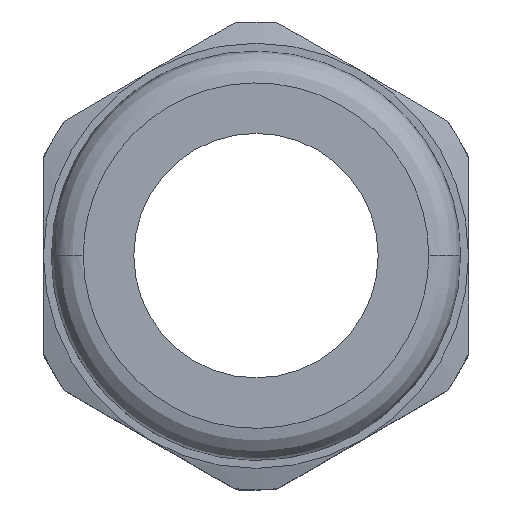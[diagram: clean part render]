
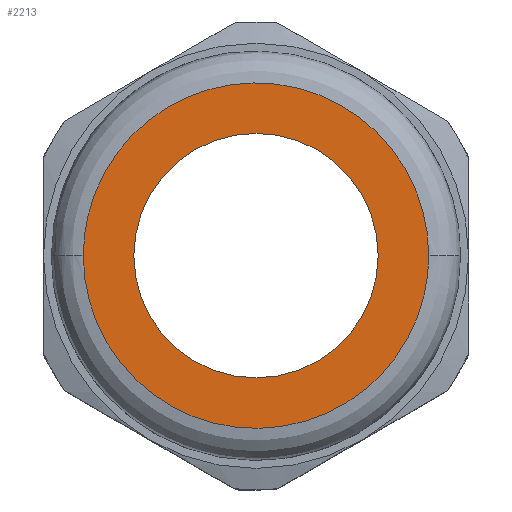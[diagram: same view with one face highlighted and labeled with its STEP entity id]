
A CAD part, top view. The second image highlights one B-rep face of the part: STEP entity #2213.
In plain terms, the highlighted planar face has unit normal (0, 0, 1).
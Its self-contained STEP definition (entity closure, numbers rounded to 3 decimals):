
#12 = CARTESIAN_POINT ( 'NONE',  ( -12.242, -10.739, 14. ) ) ;
#156 = CARTESIAN_POINT ( 'NONE',  ( 16.25, 0., 14. ) ) ;
#171 = CARTESIAN_POINT ( 'NONE',  ( -12.916, -9.917, 14. ) ) ;
#278 = EDGE_CURVE ( 'NONE', #5765, #11070, #3142, .T. ) ;
#290 = CARTESIAN_POINT ( 'NONE',  ( -4.219, 15.728, 14. ) ) ;
#441 = EDGE_LOOP ( 'NONE', ( #8482, #8923 ) ) ;
#1091 = CARTESIAN_POINT ( 'NONE',  ( 12.916, -9.917, 14. ) ) ;
#1513 = FACE_BOUND ( 'NONE', #441, .T. ) ;
#1540 = CARTESIAN_POINT ( 'NONE',  ( -2.121, 16.145, 14. ) ) ;
#1616 = CARTESIAN_POINT ( 'NONE',  ( -10.739, 12.242, 14. ) ) ;
#1700 = CARTESIAN_POINT ( 'NONE',  ( 4.219, 15.728, 14. ) ) ;
#1771 = CARTESIAN_POINT ( 'NONE',  ( -15.728, 4.22, 14. ) ) ;
#1919 = CARTESIAN_POINT ( 'NONE',  ( -15.42, 5.236, 14. ) ) ;
#1994 = CARTESIAN_POINT ( 'NONE',  ( -16.25, 1.064, 14. ) ) ;
#2069 = CARTESIAN_POINT ( 'NONE',  ( -12.916, 9.917, 14. ) ) ;
#2202 = CARTESIAN_POINT ( 'NONE',  ( 2.121, -16.145, 14. ) ) ;
#2213 = ADVANCED_FACE ( 'NONE', ( #11312, #1513 ), #8895, .T. ) ;
#2280 = CARTESIAN_POINT ( 'NONE',  ( -14.105, -8.138, 14. ) ) ;
#2439 = CARTESIAN_POINT ( 'NONE',  ( 9.917, -12.916, 14. ) ) ;
#2524 = CARTESIAN_POINT ( 'NONE',  ( 8.138, -14.105, 14. ) ) ;
#2648 = CARTESIAN_POINT ( 'NONE',  ( 15.728, 4.219, 14. ) ) ;
#2720 = CARTESIAN_POINT ( 'NONE',  ( 12.916, 9.917, 14. ) ) ;
#2751 = ORIENTED_EDGE ( 'NONE', *, *, #278, .T. ) ;
#3142 = B_SPLINE_CURVE_WITH_KNOTS ( 'NONE', 3,
 ( #8541, #13388, #11043, #2648, #8708, #13313, #7580, #2720, #8783, #12214, #14643, #6237, #10013, #7343, #1700, #13543, #12282, #6472, #1540, #290, #12361, #5056, #9853, #13472, #1616, #12734, #2069, #11420, #6763, #1919, #1771, #7959, #1994, #5509 ),
 .UNSPECIFIED., .F., .F.,
 ( 4, 2, 2, 2, 2, 2, 2, 2, 2, 2, 2, 2, 2, 2, 2, 2, 4 ),
 ( 0.5, 0.531, 0.563, 0.594, 0.625, 0.656, 0.688, 0.719, 0.75, 0.781, 0.813, 0.844, 0.875, 0.906, 0.938, 0.969, 1. ),
 .UNSPECIFIED. ) ;
#3446 = CARTESIAN_POINT ( 'NONE',  ( -10.739, -12.242, 14. ) ) ;
#3520 = CARTESIAN_POINT ( 'NONE',  ( 16.25, -1.063, 14. ) ) ;
#3682 = CARTESIAN_POINT ( 'NONE',  ( -9.917, -12.916, 14. ) ) ;
#4619 = CARTESIAN_POINT ( 'NONE',  ( 16.25, 0., 14. ) ) ;
#4699 = CARTESIAN_POINT ( 'NONE',  ( 12.242, -10.739, 14. ) ) ;
#4792 = EDGE_CURVE ( 'NONE', #8811, #13663, #6283, .T. ) ;
#5056 = CARTESIAN_POINT ( 'NONE',  ( -7.201, 14.606, 14. ) ) ;
#5509 = CARTESIAN_POINT ( 'NONE',  ( -16.25, 0., 14. ) ) ;
#5514 = CARTESIAN_POINT ( 'NONE',  ( 0., 0., 14. ) ) ;
#5765 = VERTEX_POINT ( 'NONE', #156 ) ;
#5795 = CARTESIAN_POINT ( 'NONE',  ( 5.236, -15.42, 14. ) ) ;
#5814 = EDGE_CURVE ( 'NONE', #13663, #8811, #8273, .T. ) ;
#6112 = CARTESIAN_POINT ( 'NONE',  ( -14.606, -7.201, 14. ) ) ;
#6237 = CARTESIAN_POINT ( 'NONE',  ( 8.138, 14.105, 14. ) ) ;
#6283 = CIRCLE ( 'NONE', #7288, 11.5 ) ;
#6472 = CARTESIAN_POINT ( 'NONE',  ( -1.063, 16.25, 14. ) ) ;
#6763 = CARTESIAN_POINT ( 'NONE',  ( -14.606, 7.201, 14. ) ) ;
#6977 = CARTESIAN_POINT ( 'NONE',  ( 4.219, -15.728, 14. ) ) ;
#7042 = CARTESIAN_POINT ( 'NONE',  ( 0., 0., 14. ) ) ;
#7055 = CARTESIAN_POINT ( 'NONE',  ( 7.201, -14.606, 14. ) ) ;
#7137 = CARTESIAN_POINT ( 'NONE',  ( -5.236, -15.42, 14. ) ) ;
#7215 = CARTESIAN_POINT ( 'NONE',  ( 15.42, -5.236, 14. ) ) ;
#7288 = AXIS2_PLACEMENT_3D ( 'NONE', #5514, #9074, #13706 ) ;
#7314 = EDGE_LOOP ( 'NONE', ( #10811, #2751 ) ) ;
#7343 = CARTESIAN_POINT ( 'NONE',  ( 5.236, 15.42, 14. ) ) ;
#7580 = CARTESIAN_POINT ( 'NONE',  ( 14.105, 8.138, 14. ) ) ;
#7959 = CARTESIAN_POINT ( 'NONE',  ( -16.146, 2.12, 14. ) ) ;
#8259 = CARTESIAN_POINT ( 'NONE',  ( -8.138, -14.105, 14. ) ) ;
#8273 = CIRCLE ( 'NONE', #9032, 11.5 ) ;
#8482 = ORIENTED_EDGE ( 'NONE', *, *, #4792, .T. ) ;
#8498 = CARTESIAN_POINT ( 'NONE',  ( -7.201, -14.606, 14. ) ) ;
#8541 = CARTESIAN_POINT ( 'NONE',  ( 16.25, 0., 14. ) ) ;
#8708 = CARTESIAN_POINT ( 'NONE',  ( 15.42, 5.236, 14. ) ) ;
#8755 = DIRECTION ( 'NONE',  ( 0., 0., 1. ) ) ;
#8783 = CARTESIAN_POINT ( 'NONE',  ( 12.242, 10.739, 14. ) ) ;
#8811 = VERTEX_POINT ( 'NONE', #10590 ) ;
#8895 = PLANE ( 'NONE',  #14430 ) ;
#8923 = ORIENTED_EDGE ( 'NONE', *, *, #5814, .T. ) ;
#9032 = AXIS2_PLACEMENT_3D ( 'NONE', #7042, #13093, #9487 ) ;
#9074 = DIRECTION ( 'NONE',  ( 0., 0., -1. ) ) ;
#9487 = DIRECTION ( 'NONE',  ( -1., 0., 0. ) ) ;
#9497 = CARTESIAN_POINT ( 'NONE',  ( 14.105, -8.138, 14. ) ) ;
#9651 = CARTESIAN_POINT ( 'NONE',  ( -16.25, 0., 14. ) ) ;
#9853 = CARTESIAN_POINT ( 'NONE',  ( -8.138, 14.105, 14. ) ) ;
#10013 = CARTESIAN_POINT ( 'NONE',  ( 7.201, 14.606, 14. ) ) ;
#10590 = CARTESIAN_POINT ( 'NONE',  ( -11.5, 0., 14. ) ) ;
#10695 = EDGE_CURVE ( 'NONE', #11070, #5765, #11015, .T. ) ;
#10759 = CARTESIAN_POINT ( 'NONE',  ( -15.728, -4.219, 14. ) ) ;
#10811 = ORIENTED_EDGE ( 'NONE', *, *, #10695, .T. ) ;
#11015 = B_SPLINE_CURVE_WITH_KNOTS ( 'NONE', 3,
 ( #9651, #14451, #13107, #10759, #13188, #6112, #2280, #171, #12, #3446, #3682, #8259, #8498, #7137, #11928, #13270, #14133, #12953, #2202, #6977, #5795, #7055, #2524, #2439, #11847, #4699, #1091, #9497, #14296, #7215, #11769, #15392, #3520, #4619 ),
 .UNSPECIFIED., .F., .F.,
 ( 4, 2, 2, 2, 2, 2, 2, 2, 2, 2, 2, 2, 2, 2, 2, 2, 4 ),
 ( 0., 0.031, 0.062, 0.094, 0.125, 0.156, 0.187, 0.219, 0.25, 0.281, 0.312, 0.344, 0.375, 0.406, 0.437, 0.469, 0.5 ),
 .UNSPECIFIED. ) ;
#11043 = CARTESIAN_POINT ( 'NONE',  ( 16.145, 2.121, 14. ) ) ;
#11070 = VERTEX_POINT ( 'NONE', #15353 ) ;
#11312 = FACE_OUTER_BOUND ( 'NONE', #7314, .T. ) ;
#11420 = CARTESIAN_POINT ( 'NONE',  ( -14.105, 8.138, 14. ) ) ;
#11769 = CARTESIAN_POINT ( 'NONE',  ( 15.728, -4.219, 14. ) ) ;
#11847 = CARTESIAN_POINT ( 'NONE',  ( 10.739, -12.242, 14. ) ) ;
#11928 = CARTESIAN_POINT ( 'NONE',  ( -4.219, -15.728, 14. ) ) ;
#12214 = CARTESIAN_POINT ( 'NONE',  ( 10.739, 12.242, 14. ) ) ;
#12282 = CARTESIAN_POINT ( 'NONE',  ( 1.063, 16.25, 14. ) ) ;
#12361 = CARTESIAN_POINT ( 'NONE',  ( -5.236, 15.42, 14. ) ) ;
#12734 = CARTESIAN_POINT ( 'NONE',  ( -12.242, 10.739, 14. ) ) ;
#12811 = CARTESIAN_POINT ( 'NONE',  ( 11.5, 0., 14. ) ) ;
#12953 = CARTESIAN_POINT ( 'NONE',  ( 1.063, -16.25, 14. ) ) ;
#13093 = DIRECTION ( 'NONE',  ( 0., 0., -1. ) ) ;
#13107 = CARTESIAN_POINT ( 'NONE',  ( -16.145, -2.121, 14. ) ) ;
#13188 = CARTESIAN_POINT ( 'NONE',  ( -15.42, -5.236, 14. ) ) ;
#13270 = CARTESIAN_POINT ( 'NONE',  ( -2.121, -16.146, 14. ) ) ;
#13313 = CARTESIAN_POINT ( 'NONE',  ( 14.606, 7.201, 14. ) ) ;
#13388 = CARTESIAN_POINT ( 'NONE',  ( 16.25, 1.063, 14. ) ) ;
#13437 = CARTESIAN_POINT ( 'NONE',  ( 0., 19.25, 14. ) ) ;
#13472 = CARTESIAN_POINT ( 'NONE',  ( -9.917, 12.916, 14. ) ) ;
#13513 = DIRECTION ( 'NONE',  ( 1., 0., 0. ) ) ;
#13543 = CARTESIAN_POINT ( 'NONE',  ( 2.121, 16.146, 14. ) ) ;
#13663 = VERTEX_POINT ( 'NONE', #12811 ) ;
#13706 = DIRECTION ( 'NONE',  ( -1., 0., 0. ) ) ;
#14133 = CARTESIAN_POINT ( 'NONE',  ( -1.063, -16.25, 14. ) ) ;
#14296 = CARTESIAN_POINT ( 'NONE',  ( 14.606, -7.201, 14. ) ) ;
#14430 = AXIS2_PLACEMENT_3D ( 'NONE', #13437, #8755, #13513 ) ;
#14451 = CARTESIAN_POINT ( 'NONE',  ( -16.25, -1.063, 14. ) ) ;
#14643 = CARTESIAN_POINT ( 'NONE',  ( 9.917, 12.916, 14. ) ) ;
#15353 = CARTESIAN_POINT ( 'NONE',  ( -16.25, 0., 14. ) ) ;
#15392 = CARTESIAN_POINT ( 'NONE',  ( 16.146, -2.121, 14. ) ) ;
